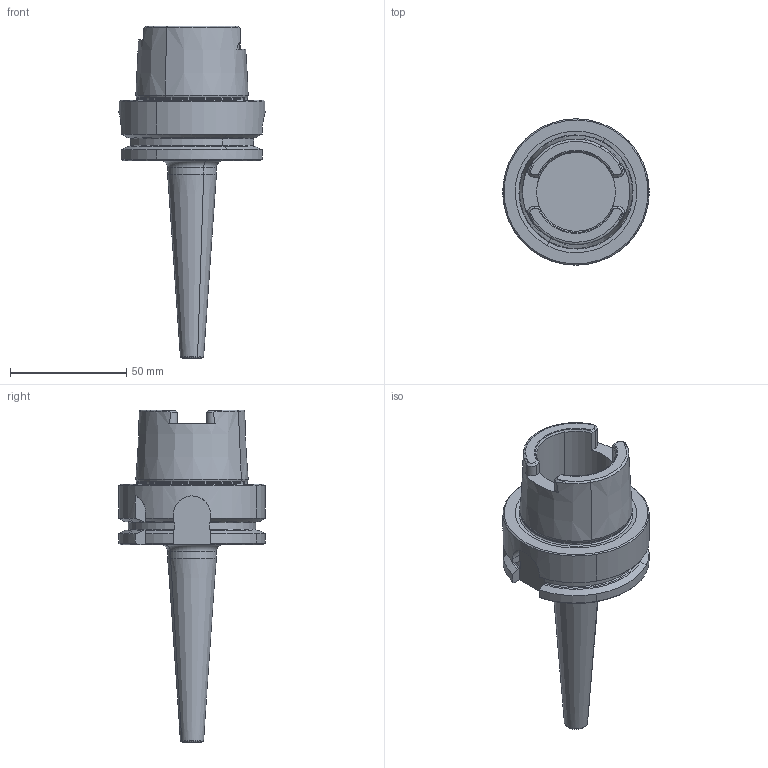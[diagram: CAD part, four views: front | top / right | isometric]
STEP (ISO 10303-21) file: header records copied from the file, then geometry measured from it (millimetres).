
FILE_DESCRIPTION(('CATIA V5 STEP','CAx-IF Rec.Pracs.--- Model Styling and Organization---1.2---2011-12-15'),'2;1');
FILE_NAME('\\nas01\drv1\utils\eitdev\rte\eit\transmagicconvert\db\out\4504563 L.stp','2014-03-23T06:36:29+00:00',('none'),('none'),'CATIA Version 5 Release 21 SP 5 (IN-10)','CATIA V5 STEP AP214','none');
FILE_SCHEMA(('AUTOMOTIVE_DESIGN { 1 0 10303 214 1 1 1 1 }'));
Length unit declared in the file: millimetre
Products named in the file (1): 60796973_0 Holder-Tool HSK A 63 SRK 4X 85
Bounding box: 63 x 63 x 143 mm (x, y, z)
Volume: 108531.1 mm3; surface area: 24773.4 mm2
Topology: 1 solids, 1 shells, 126 faces, 327 edges, 206 vertices
Faces by surface type: plane 41, cone 35, cylinder 26, torus 24
Entity records: 3857 total; most frequent: CARTESIAN_POINT 1135, ORIENTED_EDGE 654, DIRECTION 398, EDGE_CURVE 327, AXIS2_PLACEMENT_3D 210, VERTEX_POINT 206, CIRCLE 139, EDGE_LOOP 129
